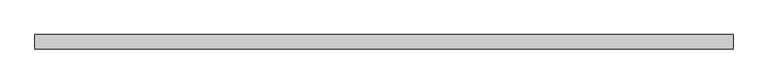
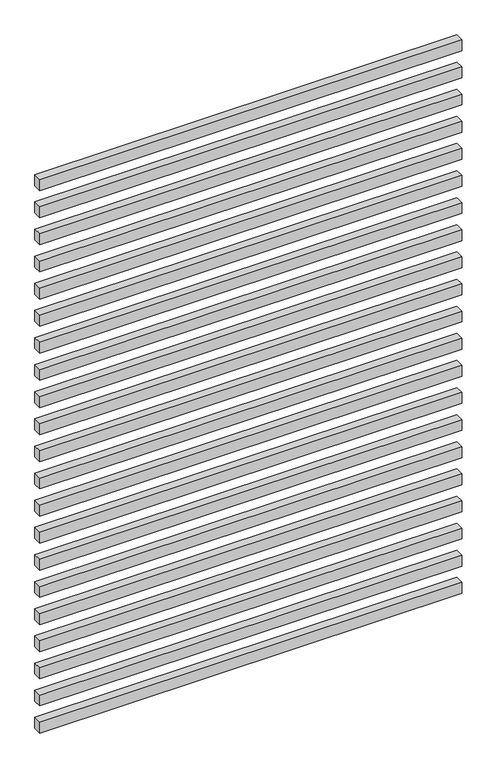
"""IFC4 building model written with IfcOpenShell, lengths in millimetres: proxy geometry, RIPAS ALUMINIO : RIPAS ALUMINIO."""

from ifc_helpers import new_model, si_unit, frame, origin, place, context, project, spatial, polyline, outline, extrude, source, transform, mapped, element, save


def generic_models_df8df36a(model_context):
    return source(origin(), model_context, "Body", "SweptSolid", [
        extrude(outline(polyline([(-4580.4646154, 12215.2417838), (-3107.4887507, 12215.2417838), (-3107.4887507, 12185.2417838), (-4580.4646154, 12185.2417838), (-4580.4646154, 12215.2417838)])), frame((0.0, 0.0, 4460.0), z_axis=(0.0, 0.0, 1.0), x_axis=(1.0, 0.0, 0.0)), (0.0, 0.0, 1.0), 40.0),
        extrude(outline(polyline([(-4580.4646154, 12215.2417838), (-3107.4887507, 12215.2417838), (-3107.4887507, 12185.2417838), (-4580.4646154, 12185.2417838), (-4580.4646154, 12215.2417838)])), frame((0.0, 0.0, 4360.0), z_axis=(0.0, 0.0, 1.0), x_axis=(1.0, 0.0, 0.0)), (0.0, 0.0, 1.0), 40.0),
        extrude(outline(polyline([(-4580.4646154, 12215.2417838), (-3107.4887507, 12215.2417838), (-3107.4887507, 12185.2417838), (-4580.4646154, 12185.2417838), (-4580.4646154, 12215.2417838)])), frame((0.0, 0.0, 4260.0), z_axis=(0.0, 0.0, 1.0), x_axis=(1.0, 0.0, 0.0)), (0.0, 0.0, 1.0), 40.0),
        extrude(outline(polyline([(-4580.4646154, 12215.2417838), (-3107.4887507, 12215.2417838), (-3107.4887507, 12185.2417838), (-4580.4646154, 12185.2417838), (-4580.4646154, 12215.2417838)])), frame((0.0, 0.0, 4160.0), z_axis=(0.0, 0.0, 1.0), x_axis=(1.0, 0.0, 0.0)), (0.0, 0.0, 1.0), 40.0),
        extrude(outline(polyline([(-4580.4646154, 12215.2417838), (-3107.4887507, 12215.2417838), (-3107.4887507, 12185.2417838), (-4580.4646154, 12185.2417838), (-4580.4646154, 12215.2417838)])), frame((0.0, 0.0, 4060.0), z_axis=(0.0, 0.0, 1.0), x_axis=(1.0, 0.0, 0.0)), (0.0, 0.0, 1.0), 40.0),
        extrude(outline(polyline([(-4580.4646154, 12215.2417838), (-3107.4887507, 12215.2417838), (-3107.4887507, 12185.2417838), (-4580.4646154, 12185.2417838), (-4580.4646154, 12215.2417838)])), frame((0.0, 0.0, 3960.0), z_axis=(0.0, 0.0, 1.0), x_axis=(1.0, 0.0, 0.0)), (0.0, 0.0, 1.0), 40.0),
        extrude(outline(polyline([(-4580.4646154, 12215.2417838), (-3107.4887507, 12215.2417838), (-3107.4887507, 12185.2417838), (-4580.4646154, 12185.2417838), (-4580.4646154, 12215.2417838)])), frame((0.0, 0.0, 3860.0), z_axis=(0.0, 0.0, 1.0), x_axis=(1.0, 0.0, 0.0)), (0.0, 0.0, 1.0), 40.0),
        extrude(outline(polyline([(-4580.4646154, 12215.2417838), (-3107.4887507, 12215.2417838), (-3107.4887507, 12185.2417838), (-4580.4646154, 12185.2417838), (-4580.4646154, 12215.2417838)])), frame((0.0, 0.0, 3760.0), z_axis=(0.0, 0.0, 1.0), x_axis=(1.0, 0.0, 0.0)), (0.0, 0.0, 1.0), 40.0),
        extrude(outline(polyline([(-4580.4646154, 12215.2417838), (-3107.4887507, 12215.2417838), (-3107.4887507, 12185.2417838), (-4580.4646154, 12185.2417838), (-4580.4646154, 12215.2417838)])), frame((0.0, 0.0, 3660.0), z_axis=(0.0, 0.0, 1.0), x_axis=(1.0, 0.0, 0.0)), (0.0, 0.0, 1.0), 40.0),
        extrude(outline(polyline([(-4580.4646154, 12215.2417838), (-3107.4887507, 12215.2417838), (-3107.4887507, 12185.2417838), (-4580.4646154, 12185.2417838), (-4580.4646154, 12215.2417838)])), frame((0.0, 0.0, 3560.0), z_axis=(0.0, 0.0, 1.0), x_axis=(1.0, 0.0, 0.0)), (0.0, 0.0, 1.0), 40.0),
        extrude(outline(polyline([(-4580.4646154, 12215.2417838), (-3107.4887507, 12215.2417838), (-3107.4887507, 12185.2417838), (-4580.4646154, 12185.2417838), (-4580.4646154, 12215.2417838)])), frame((0.0, 0.0, 3460.0), z_axis=(0.0, 0.0, 1.0), x_axis=(1.0, 0.0, 0.0)), (0.0, 0.0, 1.0), 40.0),
        extrude(outline(polyline([(-4580.4646154, 12215.2417838), (-3107.4887507, 12215.2417838), (-3107.4887507, 12185.2417838), (-4580.4646154, 12185.2417838), (-4580.4646154, 12215.2417838)])), frame((0.0, 0.0, 3360.0), z_axis=(0.0, 0.0, 1.0), x_axis=(1.0, 0.0, 0.0)), (0.0, 0.0, 1.0), 40.0),
        extrude(outline(polyline([(-4580.4646154, 12215.2417838), (-3107.4887507, 12215.2417838), (-3107.4887507, 12185.2417838), (-4580.4646154, 12185.2417838), (-4580.4646154, 12215.2417838)])), frame((0.0, 0.0, 3260.0), z_axis=(0.0, 0.0, 1.0), x_axis=(1.0, 0.0, 0.0)), (0.0, 0.0, 1.0), 40.0),
        extrude(outline(polyline([(-4580.4646154, 12215.2417838), (-3107.4887507, 12215.2417838), (-3107.4887507, 12185.2417838), (-4580.4646154, 12185.2417838), (-4580.4646154, 12215.2417838)])), frame((0.0, 0.0, 3160.0), z_axis=(0.0, 0.0, 1.0), x_axis=(1.0, 0.0, 0.0)), (0.0, 0.0, 1.0), 40.0),
        extrude(outline(polyline([(-4580.4646154, 12215.2417838), (-3107.4887507, 12215.2417838), (-3107.4887507, 12185.2417838), (-4580.4646154, 12185.2417838), (-4580.4646154, 12215.2417838)])), frame((0.0, 0.0, 3060.0), z_axis=(0.0, 0.0, 1.0), x_axis=(1.0, 0.0, 0.0)), (0.0, 0.0, 1.0), 40.0),
        extrude(outline(polyline([(-4580.4646154, 12215.2417838), (-3107.4887507, 12215.2417838), (-3107.4887507, 12185.2417838), (-4580.4646154, 12185.2417838), (-4580.4646154, 12215.2417838)])), frame((0.0, 0.0, 2960.0), z_axis=(0.0, 0.0, 1.0), x_axis=(1.0, 0.0, 0.0)), (0.0, 0.0, 1.0), 40.0),
        extrude(outline(polyline([(-4580.4646154, 12215.2417838), (-3107.4887507, 12215.2417838), (-3107.4887507, 12185.2417838), (-4580.4646154, 12185.2417838), (-4580.4646154, 12215.2417838)])), frame((0.0, 0.0, 2860.0), z_axis=(0.0, 0.0, 1.0), x_axis=(1.0, 0.0, 0.0)), (0.0, 0.0, 1.0), 40.0),
        extrude(outline(polyline([(-4580.4646154, 12215.2417838), (-3107.4887507, 12215.2417838), (-3107.4887507, 12185.2417838), (-4580.4646154, 12185.2417838), (-4580.4646154, 12215.2417838)])), frame((0.0, 0.0, 2760.0), z_axis=(0.0, 0.0, 1.0), x_axis=(1.0, 0.0, 0.0)), (0.0, 0.0, 1.0), 40.0),
        extrude(outline(polyline([(-4580.4646154, 12215.2417838), (-3107.4887507, 12215.2417838), (-3107.4887507, 12185.2417838), (-4580.4646154, 12185.2417838), (-4580.4646154, 12215.2417838)])), frame((0.0, 0.0, 2660.0), z_axis=(0.0, 0.0, 1.0), x_axis=(1.0, 0.0, 0.0)), (0.0, 0.0, 1.0), 40.0),
        extrude(outline(polyline([(-4580.4646154, 12215.2417838), (-3107.4887507, 12215.2417838), (-3107.4887507, 12185.2417838), (-4580.4646154, 12185.2417838), (-4580.4646154, 12215.2417838)])), frame((0.0, 0.0, 2560.0), z_axis=(0.0, 0.0, 1.0), x_axis=(1.0, 0.0, 0.0)), (0.0, 0.0, 1.0), 40.0),
        extrude(outline(polyline([(-4580.4646154, 12215.2417838), (-3107.4887507, 12215.2417838), (-3107.4887507, 12185.2417838), (-4580.4646154, 12185.2417838), (-4580.4646154, 12215.2417838)])), frame((0.0, 0.0, 2460.0), z_axis=(0.0, 0.0, 1.0), x_axis=(1.0, 0.0, 0.0)), (0.0, 0.0, 1.0), 40.0),
    ])


if __name__ == "__main__":
    model = new_model("IFC4")
    model_context = context("Model", 3, world=origin())
    ifc_project = project(units=[si_unit("LENGTHUNIT", "METRE", prefix="MILLI")], contexts=[model_context])
    site = spatial("IfcSite", under=ifc_project)
    building = spatial("IfcBuilding", under=site)
    placement = place(None, origin())
    generic_models_shape = generic_models_df8df36a(model_context)
    element("IfcBuildingElementProxy", 1, Name="RIPAS ALUMINIO : RIPAS ALUMINIO", ObjectType="RIPAS ALUMINIO : RIPAS ALUMINIO", at=placement, inside=building, context=model_context, shape_type="MappedRepresentation", body=[
        mapped(generic_models_shape, transform((0.0, 0.0, 0.0), x_axis=(1.0, 0.0, 0.0), y_axis=(0.0, 1.0, 0.0), z_axis=(0.0, 0.0, 1.0))),
    ])
    save(model, "model.ifc")
